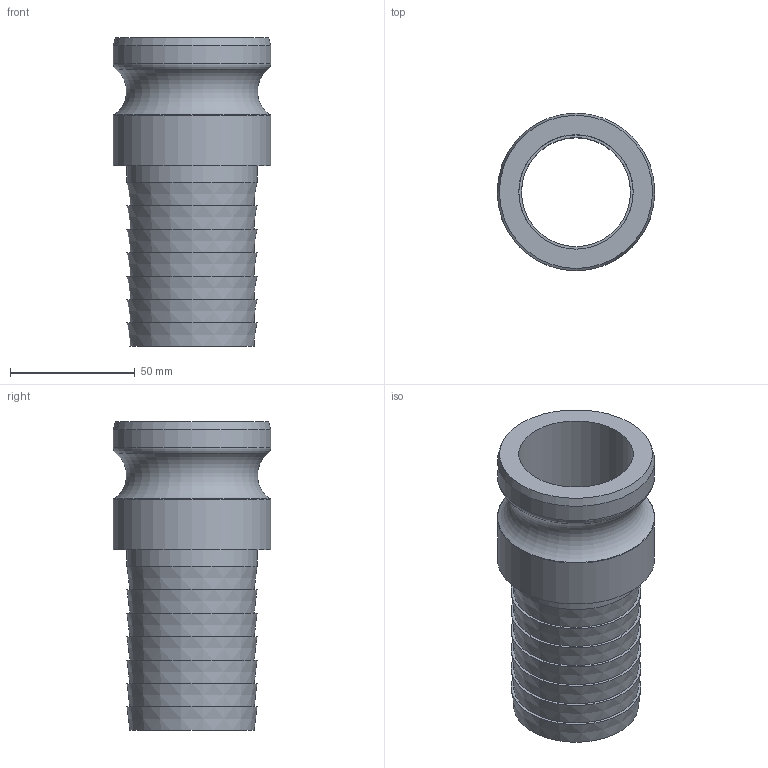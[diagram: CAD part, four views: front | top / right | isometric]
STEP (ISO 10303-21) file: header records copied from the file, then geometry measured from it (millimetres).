
FILE_DESCRIPTION(/* description */ ('Alibre Inc.'),/* implementation_level */ '2;1');
FILE_NAME(/* name */ 'export0',/* time_stamp */ '2016-01-05T16:56:10-05:00',/* author */ (''),/* organization */ (''),/* preprocessor_version */ 'ST-DEVELOPER v14',/* originating_system */ 'Alibre',/* authorisation */ '');
FILE_SCHEMA (('CONFIG_CONTROL_DESIGN'));
Length unit declared in the file: centimetre
Products named in the file (1): ID_1
Bounding box: 63.09 x 63.09 x 123.7 mm (x, y, z)
Volume: 102424.3 mm3; surface area: 43342.7 mm2
Topology: 1 solids, 1 shells, 28 faces, 48 edges, 31 vertices
Faces by surface type: plane 11, cone 9, cylinder 6, torus 2
Full cylindrical faces by diameter (mm): 43.688 x1, 45.752 x1, 45.847 x1, 52.07 x1, 63.094 x2
Entity records: 640 total; most frequent: DIRECTION 99, CARTESIAN_POINT 84, ORIENTED_EDGE 56, EDGE_LOOP 56, FACE_BOUND 56, AXIS2_PLACEMENT_3D 56, VERTEX_POINT 28, CIRCLE 28
